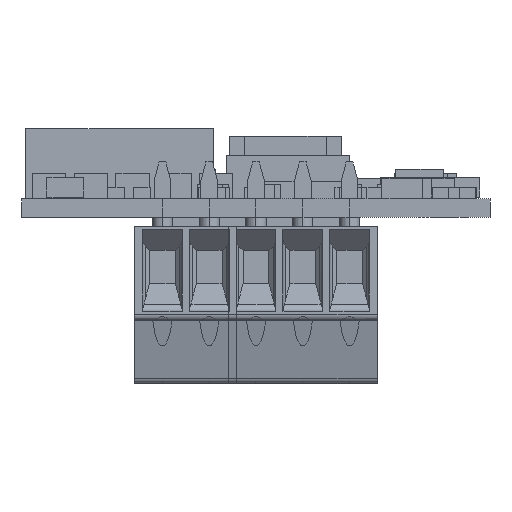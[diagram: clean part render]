
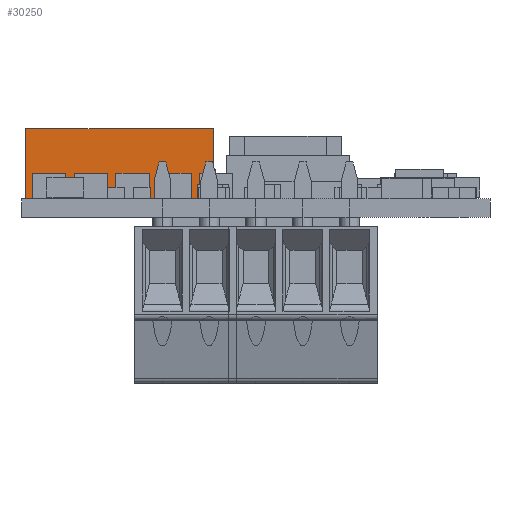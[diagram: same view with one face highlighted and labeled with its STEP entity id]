
A CAD part, left-side view. The second image highlights one B-rep face of the part: STEP entity #30250.
In plain terms, the highlighted planar face has unit normal (-1, 0, 0).
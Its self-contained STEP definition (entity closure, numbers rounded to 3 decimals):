
#30250 = ADVANCED_FACE('',(#30251),#30285,.T.);
#30251 = FACE_BOUND('',#30252,.T.);
#30252 = EDGE_LOOP('',(#30253,#30263,#30271,#30279));
#30253 = ORIENTED_EDGE('',*,*,#30254,.T.);
#30254 = EDGE_CURVE('',#30255,#30257,#30259,.T.);
#30255 = VERTEX_POINT('',#30256);
#30256 = CARTESIAN_POINT('',(-5.25,-5.1,0.));
#30257 = VERTEX_POINT('',#30258);
#30258 = CARTESIAN_POINT('',(-5.25,-5.1,3.8));
#30259 = LINE('',#30260,#30261);
#30260 = CARTESIAN_POINT('',(-5.25,-5.1,0.));
#30261 = VECTOR('',#30262,1.);
#30262 = DIRECTION('',(0.,0.,1.));
#30263 = ORIENTED_EDGE('',*,*,#30264,.T.);
#30264 = EDGE_CURVE('',#30257,#30265,#30267,.T.);
#30265 = VERTEX_POINT('',#30266);
#30266 = CARTESIAN_POINT('',(-5.25,5.1,3.8));
#30267 = LINE('',#30268,#30269);
#30268 = CARTESIAN_POINT('',(-5.25,-5.1,3.8));
#30269 = VECTOR('',#30270,1.);
#30270 = DIRECTION('',(0.,1.,0.));
#30271 = ORIENTED_EDGE('',*,*,#30272,.F.);
#30272 = EDGE_CURVE('',#30273,#30265,#30275,.T.);
#30273 = VERTEX_POINT('',#30274);
#30274 = CARTESIAN_POINT('',(-5.25,5.1,0.));
#30275 = LINE('',#30276,#30277);
#30276 = CARTESIAN_POINT('',(-5.25,5.1,0.));
#30277 = VECTOR('',#30278,1.);
#30278 = DIRECTION('',(0.,0.,1.));
#30279 = ORIENTED_EDGE('',*,*,#30280,.F.);
#30280 = EDGE_CURVE('',#30255,#30273,#30281,.T.);
#30281 = LINE('',#30282,#30283);
#30282 = CARTESIAN_POINT('',(-5.25,-5.1,0.));
#30283 = VECTOR('',#30284,1.);
#30284 = DIRECTION('',(0.,1.,0.));
#30285 = PLANE('',#30286);
#30286 = AXIS2_PLACEMENT_3D('',#30287,#30288,#30289);
#30287 = CARTESIAN_POINT('',(-5.25,-5.1,0.));
#30288 = DIRECTION('',(-1.,0.,0.));
#30289 = DIRECTION('',(0.,1.,0.));
